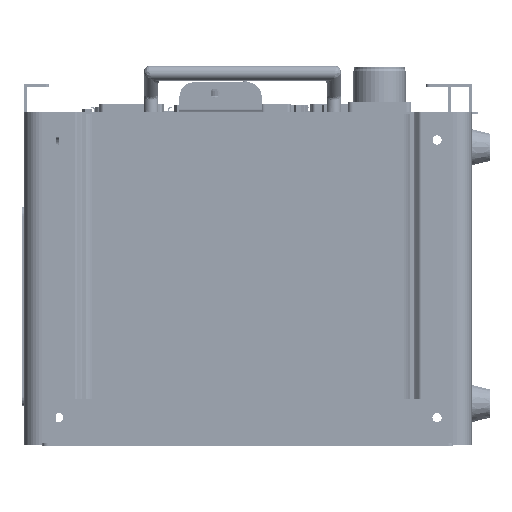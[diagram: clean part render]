
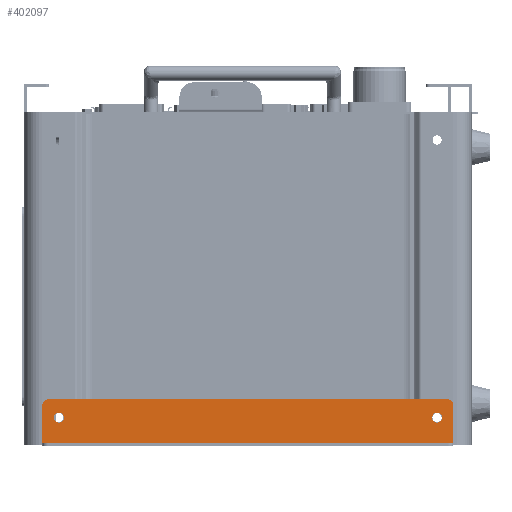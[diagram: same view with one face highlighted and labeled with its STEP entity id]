
A CAD part, left-side view. The second image highlights one B-rep face of the part: STEP entity #402097.
In plain terms, the highlighted planar face has unit normal (-1, 0, 0).
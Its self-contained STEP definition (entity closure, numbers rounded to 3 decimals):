
#401662=DIRECTION('',(0.,0.,1.));
#401663=VECTOR('',#401662,20.6);
#401664=CARTESIAN_POINT('',(19.5,0.,2.));
#401665=LINE('',#401664,#401663);
#401666=CARTESIAN_POINT('',(19.5,216.,15.6));
#401667=DIRECTION('',(-1.,0.,0.));
#401668=DIRECTION('',(0.,0.,1.));
#401669=AXIS2_PLACEMENT_3D('',#401666,#401667,#401668);
#401671=CARTESIAN_POINT('',(19.5,216.,15.6));
#401672=DIRECTION('',(-1.,0.,0.));
#401673=DIRECTION('',(0.,0.,-1.));
#401674=AXIS2_PLACEMENT_3D('',#401671,#401672,#401673);
#401676=CARTESIAN_POINT('',(19.5,9.,15.6));
#401677=DIRECTION('',(-1.,0.,0.));
#401678=DIRECTION('',(0.,0.,1.));
#401679=AXIS2_PLACEMENT_3D('',#401676,#401677,#401678);
#401681=CARTESIAN_POINT('',(19.5,9.,15.6));
#401682=DIRECTION('',(-1.,0.,0.));
#401683=DIRECTION('',(0.,0.,-1.));
#401684=AXIS2_PLACEMENT_3D('',#401681,#401682,#401683);
#401686=CARTESIAN_POINT('',(19.5,222.,22.6));
#401687=DIRECTION('',(-1.,0.,0.));
#401688=DIRECTION('',(0.,0.,1.));
#401689=AXIS2_PLACEMENT_3D('',#401686,#401687,#401688);
#401691=CARTESIAN_POINT('',(19.5,3.,22.6));
#401692=DIRECTION('',(-1.,0.,0.));
#401693=DIRECTION('',(0.,-1.,0.));
#401694=AXIS2_PLACEMENT_3D('',#401691,#401692,#401693);
#401696=DIRECTION('',(0.,1.,0.));
#401697=VECTOR('',#401696,225.);
#401698=CARTESIAN_POINT('',(19.5,0.,2.));
#401699=LINE('',#401698,#401697);
#401762=DIRECTION('',(0.,1.,0.));
#401763=VECTOR('',#401762,219.);
#401764=CARTESIAN_POINT('',(19.5,3.,25.6));
#401765=LINE('',#401764,#401763);
#401787=DIRECTION('',(0.,0.,1.));
#401788=VECTOR('',#401787,20.6);
#401789=CARTESIAN_POINT('',(19.5,225.,2.));
#401790=LINE('',#401789,#401788);
#401939=CARTESIAN_POINT('',(19.5,0.,2.));
#401940=CARTESIAN_POINT('',(19.5,225.,2.));
#401941=VERTEX_POINT('',#401939);
#401942=VERTEX_POINT('',#401940);
#401975=CARTESIAN_POINT('',(19.5,216.,18.35));
#401976=CARTESIAN_POINT('',(19.5,216.,12.85));
#401977=VERTEX_POINT('',#401975);
#401978=VERTEX_POINT('',#401976);
#401979=CARTESIAN_POINT('',(19.5,9.,18.35));
#401980=CARTESIAN_POINT('',(19.5,9.,12.85));
#401981=VERTEX_POINT('',#401979);
#401982=VERTEX_POINT('',#401980);
#402011=CARTESIAN_POINT('',(19.5,222.,25.6));
#402012=VERTEX_POINT('',#402011);
#402013=CARTESIAN_POINT('',(19.5,225.,22.6));
#402014=VERTEX_POINT('',#402013);
#402015=CARTESIAN_POINT('',(19.5,0.,22.6));
#402016=CARTESIAN_POINT('',(19.5,3.,25.6));
#402017=VERTEX_POINT('',#402015);
#402018=VERTEX_POINT('',#402016);
#402068=CARTESIAN_POINT('',(19.5,0.,2.));
#402069=DIRECTION('',(-1.,0.,0.));
#402070=DIRECTION('',(0.,0.,1.));
#402071=AXIS2_PLACEMENT_3D('',#402068,#402069,#402070);
#402072=PLANE('',#402071);
#402074=ORIENTED_EDGE('',*,*,#402073,.F.);
#402076=ORIENTED_EDGE('',*,*,#402075,.F.);
#402077=ORIENTED_EDGE('',*,*,#402058,.F.);
#402078=ORIENTED_EDGE('',*,*,#402048,.F.);
#402080=ORIENTED_EDGE('',*,*,#402079,.T.);
#402082=ORIENTED_EDGE('',*,*,#402081,.T.);
#402083=EDGE_LOOP('',(#402074,#402076,#402077,#402078,#402080,#402082));
#402084=FACE_OUTER_BOUND('',#402083,.F.);
#402086=ORIENTED_EDGE('',*,*,#402085,.T.);
#402088=ORIENTED_EDGE('',*,*,#402087,.T.);
#402089=EDGE_LOOP('',(#402086,#402088));
#402090=FACE_BOUND('',#402089,.F.);
#402092=ORIENTED_EDGE('',*,*,#402091,.T.);
#402094=ORIENTED_EDGE('',*,*,#402093,.T.);
#402095=EDGE_LOOP('',(#402092,#402094));
#402096=FACE_BOUND('',#402095,.F.);
#402097=ADVANCED_FACE('',(#402084,#402090,#402096),#402072,.T.);
#401670=CIRCLE('',#401669,2.75);
#401675=CIRCLE('',#401674,2.75);
#401680=CIRCLE('',#401679,2.75);
#401685=CIRCLE('',#401684,2.75);
#401690=CIRCLE('',#401689,3.);
#401695=CIRCLE('',#401694,3.);
#402048=EDGE_CURVE('',#401941,#402017,#401665,.T.);
#402058=EDGE_CURVE('',#402017,#402018,#401695,.T.);
#402073=EDGE_CURVE('',#402012,#402014,#401690,.T.);
#402075=EDGE_CURVE('',#402018,#402012,#401765,.T.);
#402079=EDGE_CURVE('',#401941,#401942,#401699,.T.);
#402081=EDGE_CURVE('',#401942,#402014,#401790,.T.);
#402085=EDGE_CURVE('',#401977,#401978,#401670,.T.);
#402087=EDGE_CURVE('',#401978,#401977,#401675,.T.);
#402091=EDGE_CURVE('',#401981,#401982,#401680,.T.);
#402093=EDGE_CURVE('',#401982,#401981,#401685,.T.);
